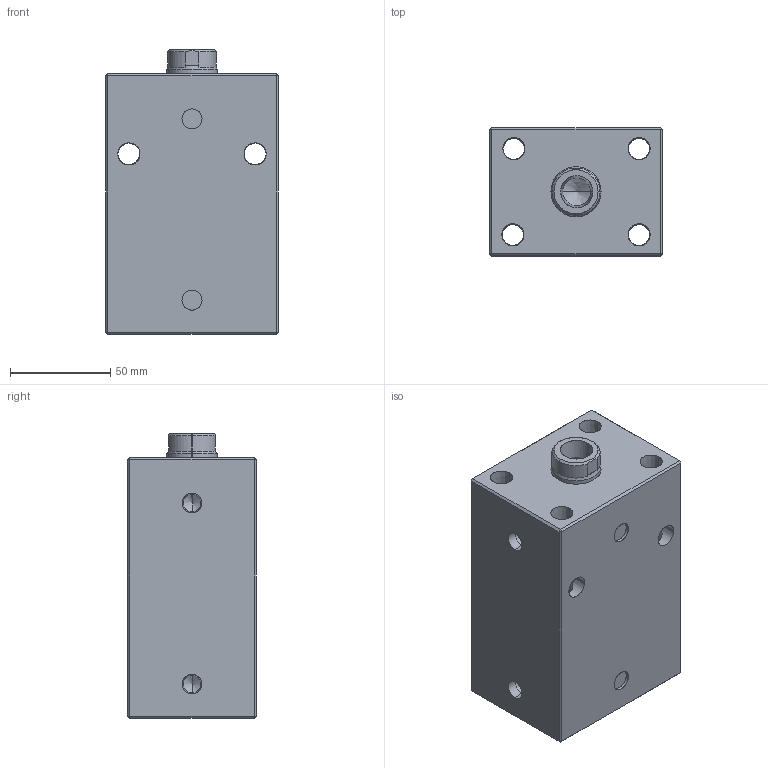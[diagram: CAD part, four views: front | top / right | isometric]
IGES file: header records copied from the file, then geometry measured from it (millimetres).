
Start section: SolidWorks IGES file using analytic representation for surfaces
Global section: file name: E:\ALL-SSVT-BLOCK\40-BORE-IGS-MODEL\BC04-40-75F.IGS; native system: SolidWorks 2019; preprocessor: SolidWorks 2019; author: SSVT; date: 210825.144845; units: millimetre
Bounding box: 86 x 64 x 142 mm (x, y, z)
Surface area: 91421.7 mm2 (no closed solid volume)
Topology: 0 solids, 0 shells, 92 faces, 1688 edges, 1682 vertices
Faces by surface type: revolution 57, bspline 35
